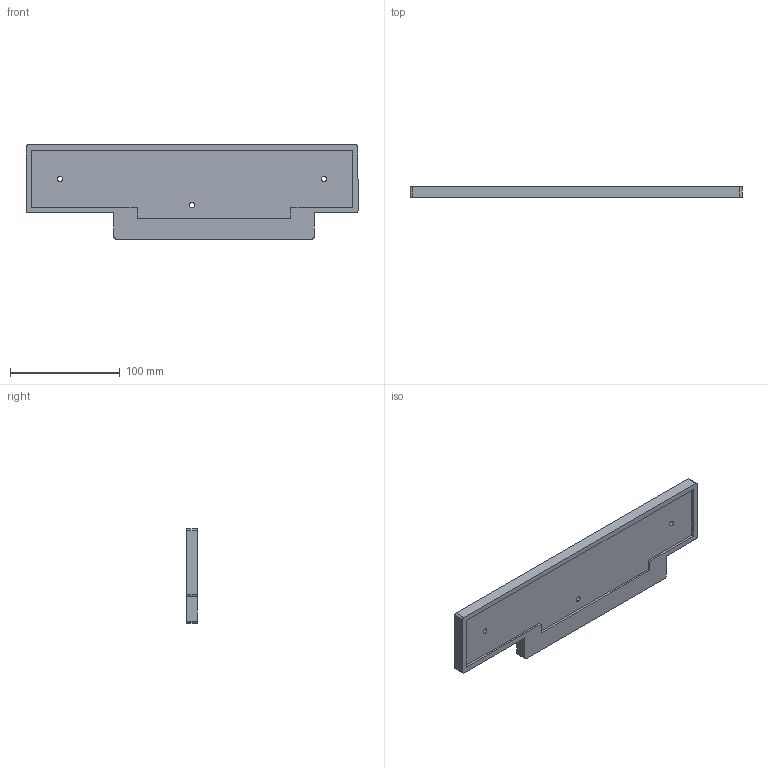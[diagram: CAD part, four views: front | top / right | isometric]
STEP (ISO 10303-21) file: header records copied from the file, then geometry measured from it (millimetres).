
FILE_DESCRIPTION (( 'STEP AP214' ), '1' );
FILE_NAME ('õ1.STEP', '2026-01-21T22:01:32', ( '' ), ( '' ), 'SwSTEP 2.0', 'SolidWorks 2024', '' );
FILE_SCHEMA (( 'AUTOMOTIVE_DESIGN' ));
Length unit declared in the file: millimetre
Products named in the file (1): х1
Bounding box: 302 x 10 x 86 mm (x, y, z)
Volume: 197108.3 mm3; surface area: 55511.2 mm2
Topology: 1 solids, 1 shells, 37 faces, 96 edges, 62 vertices
Faces by surface type: plane 19, cylinder 12, cone 6
Entity records: 1167 total; most frequent: DIRECTION 202, CARTESIAN_POINT 196, ORIENTED_EDGE 192, EDGE_CURVE 96, AXIS2_PLACEMENT_3D 68, VECTOR 66, LINE 66, VERTEX_POINT 62
